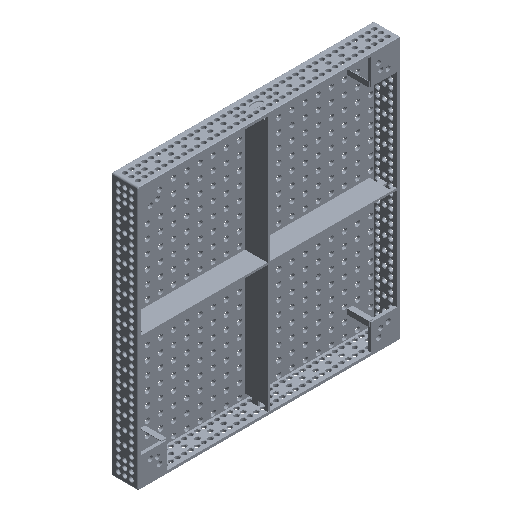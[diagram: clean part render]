
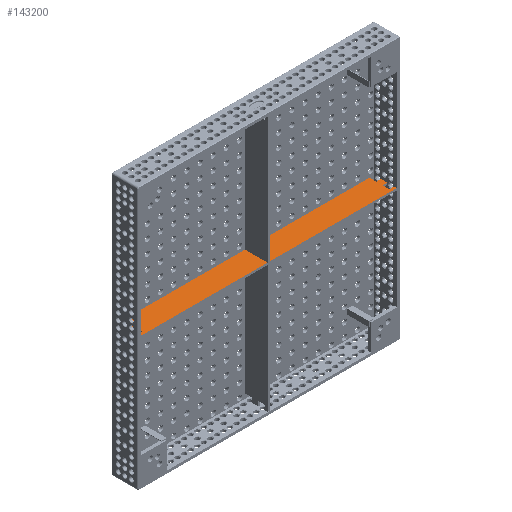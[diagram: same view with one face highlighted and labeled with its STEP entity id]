
A CAD part, isometric view. The second image highlights one B-rep face of the part: STEP entity #143200.
In plain terms, the highlighted planar face has unit normal (0, 0, 1).
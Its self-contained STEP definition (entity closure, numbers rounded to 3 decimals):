
#3082 = VECTOR ( 'NONE', #61734, 1000. ) ;
#3546 = PLANE ( 'NONE',  #111568 ) ;
#4339 = CARTESIAN_POINT ( 'NONE',  ( 488., -38., 4. ) ) ;
#4775 = LINE ( 'NONE', #50341, #59803 ) ;
#4855 = DIRECTION ( 'NONE',  ( -1., 0., 0. ) ) ;
#7148 = VECTOR ( 'NONE', #104067, 1000. ) ;
#8874 = CARTESIAN_POINT ( 'NONE',  ( 488., -38., 4. ) ) ;
#9252 = EDGE_CURVE ( 'NONE', #82787, #97588, #115335, .T. ) ;
#9602 = EDGE_CURVE ( 'NONE', #144091, #92032, #33760, .T. ) ;
#10245 = CARTESIAN_POINT ( 'NONE',  ( -488., -88., 4. ) ) ;
#10905 = EDGE_CURVE ( 'NONE', #115248, #82787, #147376, .T. ) ;
#12758 = CARTESIAN_POINT ( 'NONE',  ( -488., -88., 4. ) ) ;
#12921 = CARTESIAN_POINT ( 'NONE',  ( -470., -62., 4. ) ) ;
#12956 = CARTESIAN_POINT ( 'NONE',  ( -488., -98., 4. ) ) ;
#13605 = VECTOR ( 'NONE', #36136, 1000. ) ;
#13781 = VECTOR ( 'NONE', #49814, 1000. ) ;
#14346 = CARTESIAN_POINT ( 'NONE',  ( 470., -38., 4. ) ) ;
#15043 = EDGE_CURVE ( 'NONE', #132352, #145312, #41518, .T. ) ;
#15597 = LINE ( 'NONE', #17108, #51262 ) ;
#16807 = CARTESIAN_POINT ( 'NONE',  ( -470., -12., 4. ) ) ;
#17108 = CARTESIAN_POINT ( 'NONE',  ( 488., -88., 4. ) ) ;
#17191 = VECTOR ( 'NONE', #44191, 1000. ) ;
#19696 = VERTEX_POINT ( 'NONE', #46208 ) ;
#20784 = ORIENTED_EDGE ( 'NONE', *, *, #9252, .T. ) ;
#21373 = CARTESIAN_POINT ( 'NONE',  ( -470., -62., 4. ) ) ;
#22022 = ORIENTED_EDGE ( 'NONE', *, *, #85022, .T. ) ;
#22932 = CARTESIAN_POINT ( 'NONE',  ( 470., -62., 4. ) ) ;
#23408 = CARTESIAN_POINT ( 'NONE',  ( -470., -38., 4. ) ) ;
#24818 = EDGE_CURVE ( 'NONE', #107106, #19696, #49506, .T. ) ;
#25351 = ORIENTED_EDGE ( 'NONE', *, *, #40417, .T. ) ;
#25822 = EDGE_CURVE ( 'NONE', #61050, #29355, #50639, .T. ) ;
#27476 = DIRECTION ( 'NONE',  ( 0., 1., 0. ) ) ;
#27543 = DIRECTION ( 'NONE',  ( 0., 1., 0. ) ) ;
#29129 = VECTOR ( 'NONE', #103897, 1000. ) ;
#29355 = VERTEX_POINT ( 'NONE', #8874 ) ;
#29985 = CARTESIAN_POINT ( 'NONE',  ( -488., -62., 4. ) ) ;
#30679 = VERTEX_POINT ( 'NONE', #115680 ) ;
#30790 = CARTESIAN_POINT ( 'NONE',  ( 470., -12., 4. ) ) ;
#32585 = VERTEX_POINT ( 'NONE', #14346 ) ;
#32997 = LINE ( 'NONE', #30790, #17191 ) ;
#33760 = LINE ( 'NONE', #91970, #58697 ) ;
#34210 = CARTESIAN_POINT ( 'NONE',  ( -488., -62., 4. ) ) ;
#35843 = LINE ( 'NONE', #114307, #40512 ) ;
#36136 = DIRECTION ( 'NONE',  ( 1., 0., 0. ) ) ;
#40417 = EDGE_CURVE ( 'NONE', #117732, #61050, #4775, .T. ) ;
#40512 = VECTOR ( 'NONE', #48529, 1000. ) ;
#41021 = CARTESIAN_POINT ( 'NONE',  ( -470., -12., 4. ) ) ;
#41518 = LINE ( 'NONE', #99004, #3082 ) ;
#42728 = ORIENTED_EDGE ( 'NONE', *, *, #24818, .T. ) ;
#43286 = ORIENTED_EDGE ( 'NONE', *, *, #128068, .T. ) ;
#44009 = ORIENTED_EDGE ( 'NONE', *, *, #123837, .T. ) ;
#44191 = DIRECTION ( 'NONE',  ( 0., 1., 0. ) ) ;
#44967 = CARTESIAN_POINT ( 'NONE',  ( -488., -88., 4. ) ) ;
#46208 = CARTESIAN_POINT ( 'NONE',  ( -470., -88., 4. ) ) ;
#48195 = VECTOR ( 'NONE', #90616, 1000. ) ;
#48529 = DIRECTION ( 'NONE',  ( -1., 0., 0. ) ) ;
#49506 = LINE ( 'NONE', #12921, #7148 ) ;
#49814 = DIRECTION ( 'NONE',  ( -1., 0., 0. ) ) ;
#50341 = CARTESIAN_POINT ( 'NONE',  ( 488., -62., 4. ) ) ;
#50426 = LINE ( 'NONE', #16807, #101876 ) ;
#50639 = LINE ( 'NONE', #4339, #128861 ) ;
#51262 = VECTOR ( 'NONE', #27543, 1000. ) ;
#54880 = ORIENTED_EDGE ( 'NONE', *, *, #25822, .T. ) ;
#55405 = CARTESIAN_POINT ( 'NONE',  ( 470., -62., 4. ) ) ;
#55956 = VERTEX_POINT ( 'NONE', #57784 ) ;
#56071 = VECTOR ( 'NONE', #79738, 1000. ) ;
#57217 = EDGE_CURVE ( 'NONE', #55956, #117732, #57305, .T. ) ;
#57305 = LINE ( 'NONE', #22932, #56071 ) ;
#57784 = CARTESIAN_POINT ( 'NONE',  ( 470., -88., 4. ) ) ;
#58697 = VECTOR ( 'NONE', #68859, 1000. ) ;
#58826 = CARTESIAN_POINT ( 'NONE',  ( 0., 0., 4. ) ) ;
#59408 = ORIENTED_EDGE ( 'NONE', *, *, #65605, .T. ) ;
#59803 = VECTOR ( 'NONE', #141557, 1000. ) ;
#61050 = VERTEX_POINT ( 'NONE', #144084 ) ;
#61734 = DIRECTION ( 'NONE',  ( 0., -1., 0. ) ) ;
#63627 = ORIENTED_EDGE ( 'NONE', *, *, #77081, .T. ) ;
#64348 = DIRECTION ( 'NONE',  ( 1., 0., 0. ) ) ;
#65605 = EDGE_CURVE ( 'NONE', #92032, #107106, #97947, .T. ) ;
#68646 = EDGE_CURVE ( 'NONE', #145312, #144091, #143796, .T. ) ;
#68859 = DIRECTION ( 'NONE',  ( 0., -1., 0. ) ) ;
#70088 = DIRECTION ( 'NONE',  ( 0., 0., 1. ) ) ;
#70810 = DIRECTION ( 'NONE',  ( 1., 0., 0. ) ) ;
#73283 = CARTESIAN_POINT ( 'NONE',  ( 488., -98., 4. ) ) ;
#75791 = CARTESIAN_POINT ( 'NONE',  ( -488., -38., 4. ) ) ;
#77081 = EDGE_CURVE ( 'NONE', #100507, #132352, #50426, .T. ) ;
#79738 = DIRECTION ( 'NONE',  ( 0., 1., 0. ) ) ;
#81502 = ORIENTED_EDGE ( 'NONE', *, *, #85303, .T. ) ;
#81511 = LINE ( 'NONE', #12758, #29129 ) ;
#82787 = VERTEX_POINT ( 'NONE', #118694 ) ;
#85022 = EDGE_CURVE ( 'NONE', #32585, #100507, #32997, .T. ) ;
#85303 = EDGE_CURVE ( 'NONE', #19696, #115248, #81511, .T. ) ;
#87738 = ORIENTED_EDGE ( 'NONE', *, *, #9602, .T. ) ;
#90616 = DIRECTION ( 'NONE',  ( -1., 0., 0. ) ) ;
#91970 = CARTESIAN_POINT ( 'NONE',  ( -488., -38., 4. ) ) ;
#92032 = VERTEX_POINT ( 'NONE', #34210 ) ;
#94695 = FACE_OUTER_BOUND ( 'NONE', #121551, .T. ) ;
#97588 = VERTEX_POINT ( 'NONE', #73283 ) ;
#97947 = LINE ( 'NONE', #29985, #128106 ) ;
#98359 = ORIENTED_EDGE ( 'NONE', *, *, #57217, .T. ) ;
#99004 = CARTESIAN_POINT ( 'NONE',  ( -470., -12., 4. ) ) ;
#100507 = VERTEX_POINT ( 'NONE', #104130 ) ;
#101876 = VECTOR ( 'NONE', #4855, 1000. ) ;
#103897 = DIRECTION ( 'NONE',  ( -1., 0., 0. ) ) ;
#104067 = DIRECTION ( 'NONE',  ( 0., -1., 0. ) ) ;
#104130 = CARTESIAN_POINT ( 'NONE',  ( 470., -12., 4. ) ) ;
#106057 = ORIENTED_EDGE ( 'NONE', *, *, #10905, .T. ) ;
#106803 = CARTESIAN_POINT ( 'NONE',  ( -488., -38., 4. ) ) ;
#107106 = VERTEX_POINT ( 'NONE', #21373 ) ;
#108345 = DIRECTION ( 'NONE',  ( 0., -1., 0. ) ) ;
#108754 = CARTESIAN_POINT ( 'NONE',  ( 488., -38., 4. ) ) ;
#111568 = AXIS2_PLACEMENT_3D ( 'NONE', #58826, #70088, #70810 ) ;
#114076 = VECTOR ( 'NONE', #108345, 1000. ) ;
#114307 = CARTESIAN_POINT ( 'NONE',  ( 488., -88., 4. ) ) ;
#115169 = ORIENTED_EDGE ( 'NONE', *, *, #15043, .T. ) ;
#115248 = VERTEX_POINT ( 'NONE', #10245 ) ;
#115335 = LINE ( 'NONE', #12956, #13605 ) ;
#115680 = CARTESIAN_POINT ( 'NONE',  ( 488., -88., 4. ) ) ;
#117732 = VERTEX_POINT ( 'NONE', #55405 ) ;
#118694 = CARTESIAN_POINT ( 'NONE',  ( -488., -98., 4. ) ) ;
#119398 = EDGE_CURVE ( 'NONE', #30679, #55956, #35843, .T. ) ;
#121551 = EDGE_LOOP ( 'NONE', ( #115169, #128845, #87738, #59408, #42728, #81502, #106057, #20784, #44009, #121578, #98359, #25351, #54880, #43286, #22022, #63627 ) ) ;
#121578 = ORIENTED_EDGE ( 'NONE', *, *, #119398, .T. ) ;
#123837 = EDGE_CURVE ( 'NONE', #97588, #30679, #15597, .T. ) ;
#128068 = EDGE_CURVE ( 'NONE', #29355, #32585, #141749, .T. ) ;
#128106 = VECTOR ( 'NONE', #64348, 1000. ) ;
#128845 = ORIENTED_EDGE ( 'NONE', *, *, #68646, .T. ) ;
#128861 = VECTOR ( 'NONE', #27476, 1000. ) ;
#132352 = VERTEX_POINT ( 'NONE', #41021 ) ;
#141557 = DIRECTION ( 'NONE',  ( 1., 0., 0. ) ) ;
#141749 = LINE ( 'NONE', #108754, #13781 ) ;
#143200 = ADVANCED_FACE ( 'NONE', ( #94695 ), #3546, .T. ) ;
#143796 = LINE ( 'NONE', #75791, #48195 ) ;
#144084 = CARTESIAN_POINT ( 'NONE',  ( 488., -62., 4. ) ) ;
#144091 = VERTEX_POINT ( 'NONE', #106803 ) ;
#145312 = VERTEX_POINT ( 'NONE', #23408 ) ;
#147376 = LINE ( 'NONE', #44967, #114076 ) ;
